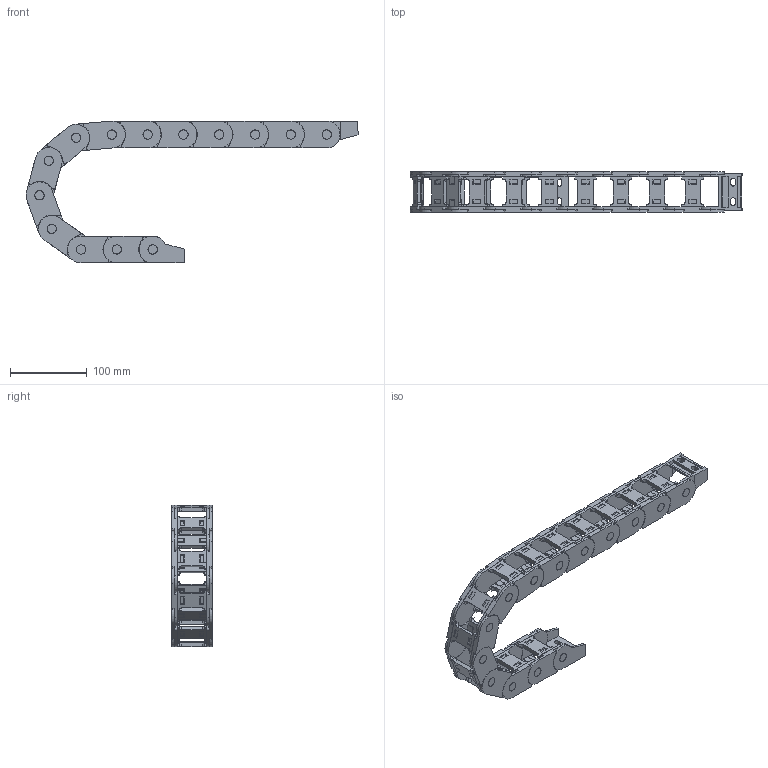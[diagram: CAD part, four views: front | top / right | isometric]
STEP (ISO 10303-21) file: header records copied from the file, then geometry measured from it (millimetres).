
FILE_DESCRIPTION((''),'2;1');
FILE_NAME('QS-25X38-R75_ASM','2022-06-09T09:37:06',('admin'),(''),'CREO PARAMETRIC BY PTC INC, 2021164','CREO PARAMETRIC BY PTC INC, 2021164','');
FILE_SCHEMA(('CONFIG_CONTROL_DESIGN','GEOMETRIC_VALIDATION_PROPERTIES_MIM'));
Length unit declared in the file: millimetre
Products named in the file (7): 25XL-L; 25XL-R; PIAN-25; ASM0001_ASM; 25X38-LTT-1; 25X38-LTT-2; QS-25X38-R75_ASM
Assembly tree (19 placements, depth 3):
  QS-25X38-R75_ASM
    ASM0001_ASM  x13
      25XL-L
      25XL-R
      PIAN-25
    25X38-LTT-1
    25X38-LTT-2
Bounding box: 432.08 x 53 x 184.55 mm (x, y, z)
Volume: 416279.6 mm3; surface area: 262471.5 mm2
Topology: 54 solids, 54 shells, 2112 faces, 6014 edges, 4040 vertices
Faces by surface type: plane 1624, cylinder 488
Entity records: 8145 total; most frequent: CARTESIAN_POINT 1297, DIRECTION 1152, ORIENTED_EDGE 1144, EDGE_CURVE 572, VECTOR 448, LINE 448, VERTEX_POINT 388, AXIS2_PLACEMENT_3D 352
